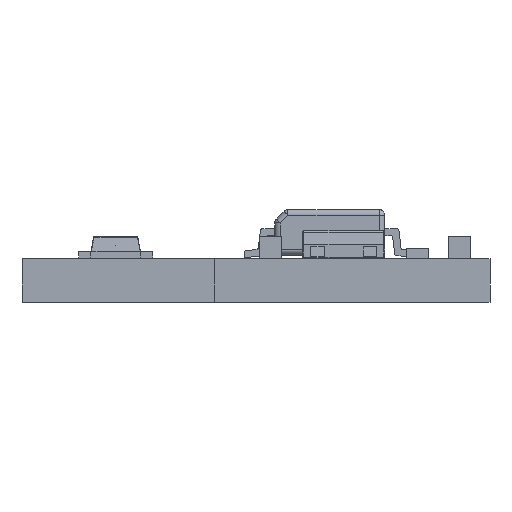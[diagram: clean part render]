
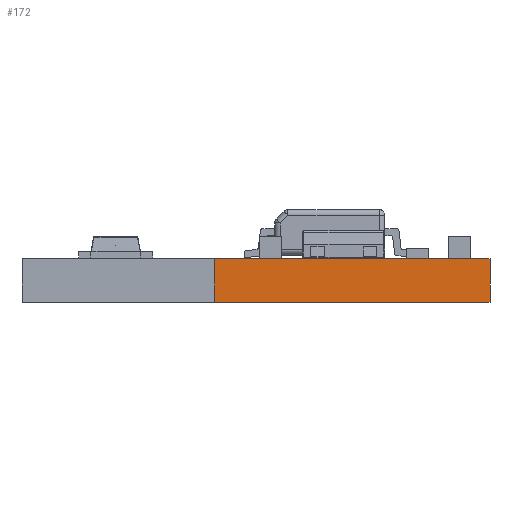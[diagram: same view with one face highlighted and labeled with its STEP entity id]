
A CAD part, front view. The second image highlights one B-rep face of the part: STEP entity #172.
In plain terms, the highlighted planar face has unit normal (0, -1, 0).
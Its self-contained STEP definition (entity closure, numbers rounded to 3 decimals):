
#67 = PLANE('',#68);
#68 = AXIS2_PLACEMENT_3D('',#69,#70,#71);
#69 = CARTESIAN_POINT('',(7.,7.,0.));
#70 = DIRECTION('',(1.,0.,0.));
#71 = DIRECTION('',(0.,-1.,0.));
#92 = VERTEX_POINT('',#93);
#93 = CARTESIAN_POINT('',(7.,0.,1.591));
#107 = PLANE('',#108);
#108 = AXIS2_PLACEMENT_3D('',#109,#110,#111);
#109 = CARTESIAN_POINT('',(7.,7.,1.591));
#110 = DIRECTION('',(0.,0.,-1.));
#111 = DIRECTION('',(-1.,0.,0.));
#119 = EDGE_CURVE('',#120,#92,#122,.T.);
#120 = VERTEX_POINT('',#121);
#121 = CARTESIAN_POINT('',(7.,0.,0.));
#122 = SURFACE_CURVE('',#123,(#127,#134),.PCURVE_S1.);
#123 = LINE('',#124,#125);
#124 = CARTESIAN_POINT('',(7.,0.,0.));
#125 = VECTOR('',#126,1.);
#126 = DIRECTION('',(0.,0.,1.));
#127 = PCURVE('',#67,#128);
#128 = DEFINITIONAL_REPRESENTATION('',(#129),#133);
#129 = LINE('',#130,#131);
#130 = CARTESIAN_POINT('',(7.,0.));
#131 = VECTOR('',#132,1.);
#132 = DIRECTION('',(0.,-1.));
#133 = ( GEOMETRIC_REPRESENTATION_CONTEXT(2) 
PARAMETRIC_REPRESENTATION_CONTEXT() REPRESENTATION_CONTEXT('2D SPACE',''
  ) );
#134 = PCURVE('',#135,#140);
#135 = PLANE('',#136);
#136 = AXIS2_PLACEMENT_3D('',#137,#138,#139);
#137 = CARTESIAN_POINT('',(7.,0.,0.));
#138 = DIRECTION('',(0.,1.,0.));
#139 = DIRECTION('',(1.,0.,0.));
#140 = DEFINITIONAL_REPRESENTATION('',(#141),#145);
#141 = LINE('',#142,#143);
#142 = CARTESIAN_POINT('',(0.,0.));
#143 = VECTOR('',#144,1.);
#144 = DIRECTION('',(0.,-1.));
#145 = ( GEOMETRIC_REPRESENTATION_CONTEXT(2) 
PARAMETRIC_REPRESENTATION_CONTEXT() REPRESENTATION_CONTEXT('2D SPACE',''
  ) );
#161 = PLANE('',#162);
#162 = AXIS2_PLACEMENT_3D('',#163,#164,#165);
#163 = CARTESIAN_POINT('',(7.,7.,0.));
#164 = DIRECTION('',(0.,0.,-1.));
#165 = DIRECTION('',(-1.,0.,0.));
#172 = ADVANCED_FACE('',(#173),#135,.F.);
#173 = FACE_BOUND('',#174,.F.);
#174 = EDGE_LOOP('',(#175,#176,#199,#227));
#175 = ORIENTED_EDGE('',*,*,#119,.T.);
#176 = ORIENTED_EDGE('',*,*,#177,.T.);
#177 = EDGE_CURVE('',#92,#178,#180,.T.);
#178 = VERTEX_POINT('',#179);
#179 = CARTESIAN_POINT('',(17.,0.,1.591));
#180 = SURFACE_CURVE('',#181,(#185,#192),.PCURVE_S1.);
#181 = LINE('',#182,#183);
#182 = CARTESIAN_POINT('',(7.,0.,1.591));
#183 = VECTOR('',#184,1.);
#184 = DIRECTION('',(1.,0.,0.));
#185 = PCURVE('',#135,#186);
#186 = DEFINITIONAL_REPRESENTATION('',(#187),#191);
#187 = LINE('',#188,#189);
#188 = CARTESIAN_POINT('',(0.,-1.591));
#189 = VECTOR('',#190,1.);
#190 = DIRECTION('',(1.,0.));
#191 = ( GEOMETRIC_REPRESENTATION_CONTEXT(2) 
PARAMETRIC_REPRESENTATION_CONTEXT() REPRESENTATION_CONTEXT('2D SPACE',''
  ) );
#192 = PCURVE('',#107,#193);
#193 = DEFINITIONAL_REPRESENTATION('',(#194),#198);
#194 = LINE('',#195,#196);
#195 = CARTESIAN_POINT('',(0.,-7.));
#196 = VECTOR('',#197,1.);
#197 = DIRECTION('',(-1.,0.));
#198 = ( GEOMETRIC_REPRESENTATION_CONTEXT(2) 
PARAMETRIC_REPRESENTATION_CONTEXT() REPRESENTATION_CONTEXT('2D SPACE',''
  ) );
#199 = ORIENTED_EDGE('',*,*,#200,.F.);
#200 = EDGE_CURVE('',#201,#178,#203,.T.);
#201 = VERTEX_POINT('',#202);
#202 = CARTESIAN_POINT('',(17.,0.,0.));
#203 = SURFACE_CURVE('',#204,(#208,#215),.PCURVE_S1.);
#204 = LINE('',#205,#206);
#205 = CARTESIAN_POINT('',(17.,0.,0.));
#206 = VECTOR('',#207,1.);
#207 = DIRECTION('',(0.,0.,1.));
#208 = PCURVE('',#135,#209);
#209 = DEFINITIONAL_REPRESENTATION('',(#210),#214);
#210 = LINE('',#211,#212);
#211 = CARTESIAN_POINT('',(10.,0.));
#212 = VECTOR('',#213,1.);
#213 = DIRECTION('',(0.,-1.));
#214 = ( GEOMETRIC_REPRESENTATION_CONTEXT(2) 
PARAMETRIC_REPRESENTATION_CONTEXT() REPRESENTATION_CONTEXT('2D SPACE',''
  ) );
#215 = PCURVE('',#216,#221);
#216 = PLANE('',#217);
#217 = AXIS2_PLACEMENT_3D('',#218,#219,#220);
#218 = CARTESIAN_POINT('',(17.,0.,0.));
#219 = DIRECTION('',(-1.,0.,0.));
#220 = DIRECTION('',(0.,1.,0.));
#221 = DEFINITIONAL_REPRESENTATION('',(#222),#226);
#222 = LINE('',#223,#224);
#223 = CARTESIAN_POINT('',(0.,0.));
#224 = VECTOR('',#225,1.);
#225 = DIRECTION('',(0.,-1.));
#226 = ( GEOMETRIC_REPRESENTATION_CONTEXT(2) 
PARAMETRIC_REPRESENTATION_CONTEXT() REPRESENTATION_CONTEXT('2D SPACE',''
  ) );
#227 = ORIENTED_EDGE('',*,*,#228,.F.);
#228 = EDGE_CURVE('',#120,#201,#229,.T.);
#229 = SURFACE_CURVE('',#230,(#234,#241),.PCURVE_S1.);
#230 = LINE('',#231,#232);
#231 = CARTESIAN_POINT('',(7.,0.,0.));
#232 = VECTOR('',#233,1.);
#233 = DIRECTION('',(1.,0.,0.));
#234 = PCURVE('',#135,#235);
#235 = DEFINITIONAL_REPRESENTATION('',(#236),#240);
#236 = LINE('',#237,#238);
#237 = CARTESIAN_POINT('',(0.,0.));
#238 = VECTOR('',#239,1.);
#239 = DIRECTION('',(1.,0.));
#240 = ( GEOMETRIC_REPRESENTATION_CONTEXT(2) 
PARAMETRIC_REPRESENTATION_CONTEXT() REPRESENTATION_CONTEXT('2D SPACE',''
  ) );
#241 = PCURVE('',#161,#242);
#242 = DEFINITIONAL_REPRESENTATION('',(#243),#247);
#243 = LINE('',#244,#245);
#244 = CARTESIAN_POINT('',(0.,-7.));
#245 = VECTOR('',#246,1.);
#246 = DIRECTION('',(-1.,0.));
#247 = ( GEOMETRIC_REPRESENTATION_CONTEXT(2) 
PARAMETRIC_REPRESENTATION_CONTEXT() REPRESENTATION_CONTEXT('2D SPACE',''
  ) );
